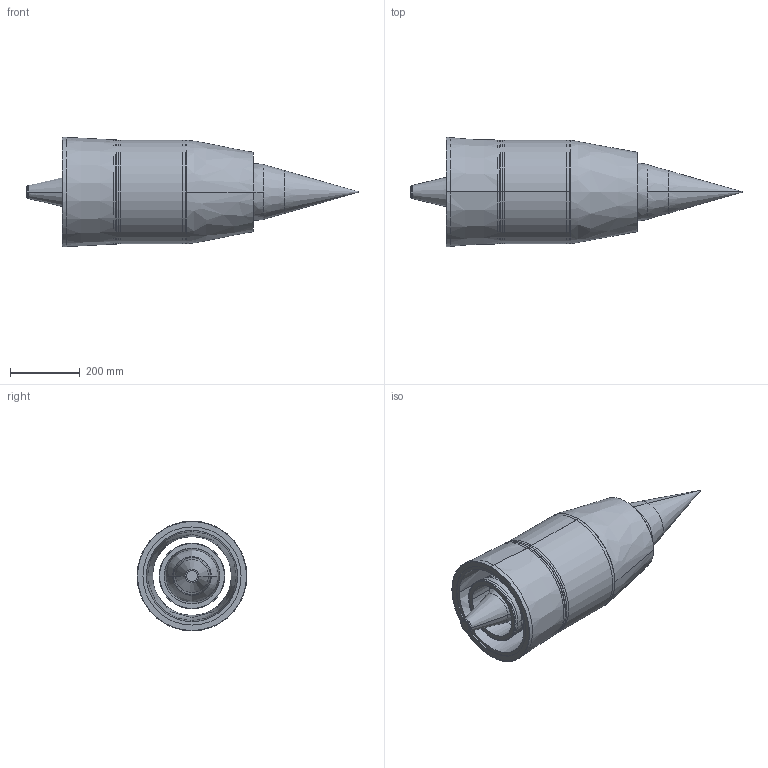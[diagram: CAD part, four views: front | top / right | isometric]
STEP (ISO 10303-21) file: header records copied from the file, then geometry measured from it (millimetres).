
FILE_DESCRIPTION (( 'STEP AP214' ), '1' );
FILE_NAME ('122DLm0p2068.STEP', '2020-09-16T14:56:59', ( '' ), ( '' ), 'SwSTEP 2.0', 'SolidWorks 2019', '' );
FILE_SCHEMA (( 'AUTOMOTIVE_DESIGN' ));
Length unit declared in the file: inch
Products named in the file (1): 122DLm0p2068
Bounding box: 950.51 x 314 x 314 mm (x, y, z)
Volume: 8322942.4 mm3; surface area: 2411258.5 mm2
Topology: 9 solids, 9 shells, 160 faces, 318 edges, 198 vertices
Faces by surface type: cylinder 68, plane 40, cone 26, bspline 16, torus 10
Entity records: 6742 total; most frequent: CARTESIAN_POINT 1085, DIRECTION 800, ORIENTED_EDGE 636, AXIS2_PLACEMENT_3D 353, EDGE_CURVE 318, CIRCLE 208, VERTEX_POINT 198, EDGE_LOOP 196
